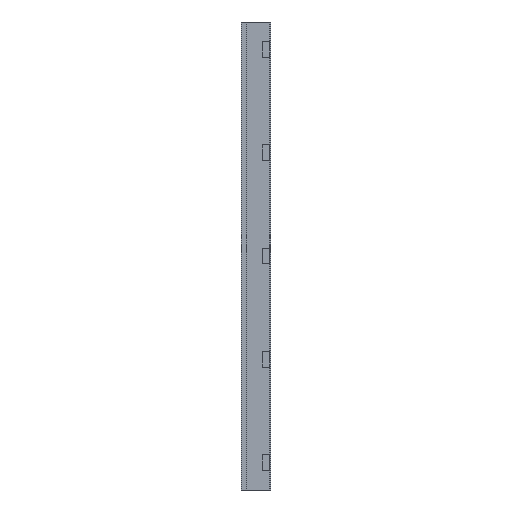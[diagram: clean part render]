
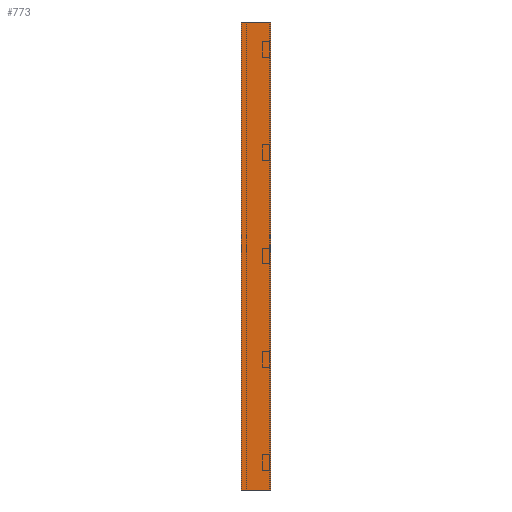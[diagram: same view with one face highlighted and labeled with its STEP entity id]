
A CAD part, left-side view. The second image highlights one B-rep face of the part: STEP entity #773.
In plain terms, the highlighted planar face has unit normal (-1, 0, 0).
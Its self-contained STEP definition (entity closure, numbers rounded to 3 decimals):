
#10 = DIRECTION ( 'NONE',  ( 0., -1., 0. ) ) ;
#44 = DIRECTION ( 'NONE',  ( 0., -1., 0. ) ) ;
#100 = CARTESIAN_POINT ( 'NONE',  ( 0., 0., -1200. ) ) ;
#207 = DIRECTION ( 'NONE',  ( 0., 0., 1. ) ) ;
#255 = CARTESIAN_POINT ( 'NONE',  ( 0., 0., 0. ) ) ;
#344 = CARTESIAN_POINT ( 'NONE',  ( 0., 0., -1200. ) ) ;
#354 = EDGE_CURVE ( 'NONE', #1591, #1402, #801, .T. ) ;
#454 = ORIENTED_EDGE ( 'NONE', *, *, #567, .T. ) ;
#505 = CARTESIAN_POINT ( 'NONE',  ( 0., 75., 0. ) ) ;
#567 = EDGE_CURVE ( 'NONE', #1576, #1402, #606, .T. ) ;
#606 = LINE ( 'NONE', #344, #1036 ) ;
#703 = PLANE ( 'NONE',  #834 ) ;
#741 = EDGE_CURVE ( 'NONE', #1078, #1576, #1104, .T. ) ;
#769 = LINE ( 'NONE', #928, #1554 ) ;
#773 = ADVANCED_FACE ( 'NONE', ( #1110 ), #703, .T. ) ;
#801 = LINE ( 'NONE', #1333, #1287 ) ;
#806 = CARTESIAN_POINT ( 'NONE',  ( 0., 75., -1200. ) ) ;
#829 = ORIENTED_EDGE ( 'NONE', *, *, #1611, .F. ) ;
#834 = AXIS2_PLACEMENT_3D ( 'NONE', #1613, #1227, #1627 ) ;
#836 = CARTESIAN_POINT ( 'NONE',  ( 0., 0., -1200. ) ) ;
#928 = CARTESIAN_POINT ( 'NONE',  ( 0., 75., -1200. ) ) ;
#941 = EDGE_LOOP ( 'NONE', ( #1532, #829, #1214, #454 ) ) ;
#1036 = VECTOR ( 'NONE', #207, 1000. ) ;
#1078 = VERTEX_POINT ( 'NONE', #806 ) ;
#1104 = LINE ( 'NONE', #836, #1457 ) ;
#1110 = FACE_OUTER_BOUND ( 'NONE', #941, .T. ) ;
#1210 = DIRECTION ( 'NONE',  ( 0., 0., 1. ) ) ;
#1214 = ORIENTED_EDGE ( 'NONE', *, *, #741, .T. ) ;
#1227 = DIRECTION ( 'NONE',  ( -1., 0., 0. ) ) ;
#1287 = VECTOR ( 'NONE', #10, 1000. ) ;
#1333 = CARTESIAN_POINT ( 'NONE',  ( 0., 0., 0. ) ) ;
#1402 = VERTEX_POINT ( 'NONE', #255 ) ;
#1457 = VECTOR ( 'NONE', #44, 1000. ) ;
#1532 = ORIENTED_EDGE ( 'NONE', *, *, #354, .F. ) ;
#1554 = VECTOR ( 'NONE', #1210, 1000. ) ;
#1576 = VERTEX_POINT ( 'NONE', #100 ) ;
#1591 = VERTEX_POINT ( 'NONE', #505 ) ;
#1611 = EDGE_CURVE ( 'NONE', #1078, #1591, #769, .T. ) ;
#1613 = CARTESIAN_POINT ( 'NONE',  ( 0., 0., -1200. ) ) ;
#1627 = DIRECTION ( 'NONE',  ( 0., 0., 1. ) ) ;
